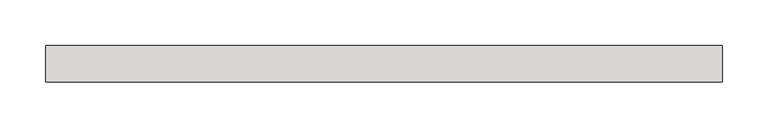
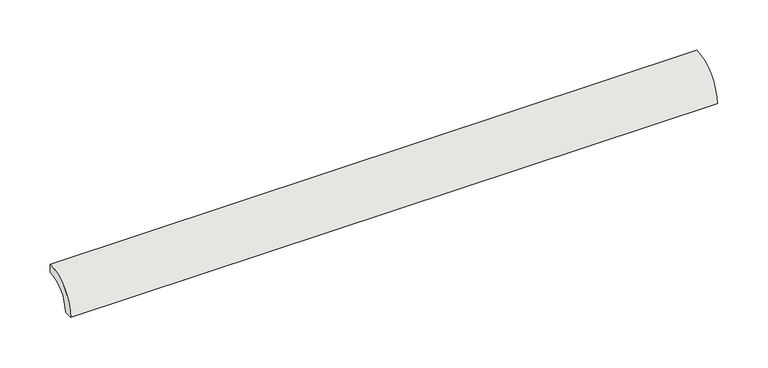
"""IFC4 building model written with IfcOpenShell, lengths in millimetres: slab geometry, ROSA GRES_183 : Pieza 183_Serena_Ocra_Anti-Slip."""

from ifc_helpers import new_model, si_unit, point, frame, frame_2d, origin, origin_2d, place, context, project, spatial, polyline, circle_curve, trimmed, segment, composite_curve, outline, extrude, source, transform, mapped, element, save


def slab_76489110(model_context):
    return source(origin(), model_context, "Body", "SweptSolid", [
        extrude(outline(composite_curve([segment(polyline([(0.0, 40.0), (0.0, 30.0265886)]), True, "CONTINUOUS"), segment(trimmed(circle_curve(frame_2d((-0.0044453, 0.0044453)), 30.0221435), [point((0.0, 30.0265886))], [point((-30.0265886, 0.0))], True, "CARTESIAN"), True, "CONTINUOUS"), segment(polyline([(-30.0265886, 0.0), (-40.0, 0.0)]), True, "CONTINUOUS"), segment(trimmed(circle_curve(origin_2d(), 40.0), [point((-40.0, 0.0))], [point((0.0, 40.0))], False, "CARTESIAN"), True, "CONTINUOUS")], self_intersect=False)), frame((0.0, 0.0, 0.0), z_axis=(1.0, 0.0, 0.0), x_axis=(0.0, 1.0, 0.0)), (0.0, 0.0, 1.0), 740.0),
    ])


if __name__ == "__main__":
    model = new_model("IFC4")
    model_context = context("Model", 3, world=origin())
    ifc_project = project(units=[si_unit("LENGTHUNIT", "METRE", prefix="MILLI")], contexts=[model_context])
    site = spatial("IfcSite", under=ifc_project)
    building = spatial("IfcBuilding", under=site)
    placement = place(None, origin())
    slab_shape = slab_76489110(model_context)
    element("IfcSlab", 1, ObjectType="ROSA GRES_183 : Pieza 183_Serena_Ocra_Anti-Slip", at=placement, inside=building, context=model_context, shape_type="MappedRepresentation", body=[
        mapped(slab_shape, transform((0.0, 0.0, 0.0), x_axis=(1.0, 0.0, 0.0), y_axis=(0.0, 1.0, 0.0), z_axis=(0.0, 0.0, 1.0))),
    ])
    save(model, "model.ifc")
